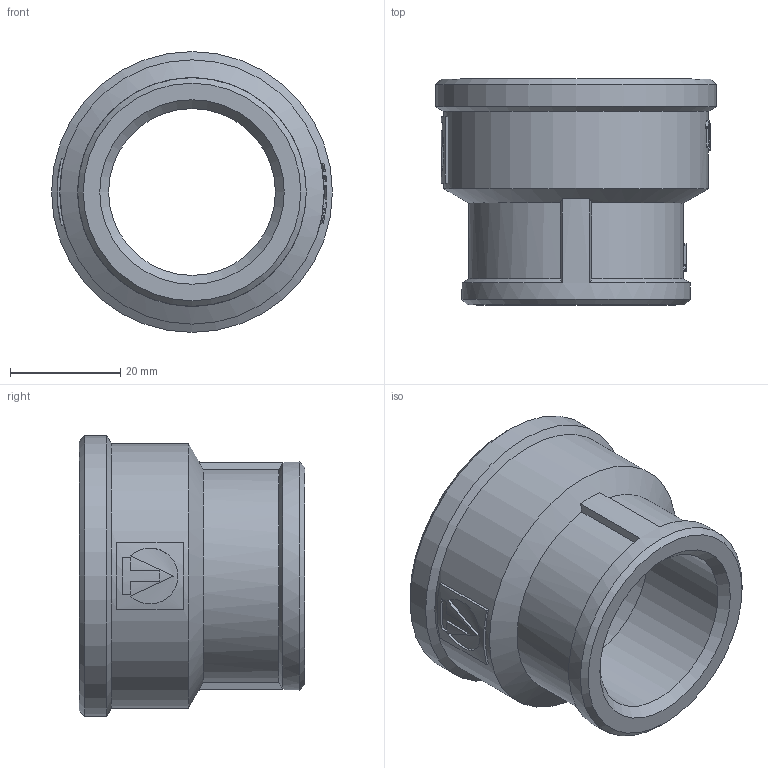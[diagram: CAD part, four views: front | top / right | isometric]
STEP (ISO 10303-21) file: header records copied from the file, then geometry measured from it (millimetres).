
FILE_DESCRIPTION(('STEP AP203'), '1');
FILE_NAME('ÂÐ.714361.008 - VTr.240.N.0706 Ìóôòà G1 1-4 õ G1', '2024-06-27T08:12:52', ('Boss'), (''), 'C3D Converter', 'C3D Toolkit', '');
FILE_SCHEMA(('CONFIG_CONTROL_DESIGN'));
Length unit declared in the file: millimetre
Products named in the file (1): ВР.714361.008
Bounding box: 51 x 41 x 51 mm (x, y, z)
Volume: 24708.1 mm3; surface area: 12263.3 mm2
Topology: 1 solids, 1 shells, 184 faces, 505 edges, 334 vertices
Faces by surface type: extrusion 90, plane 65, cylinder 20, cone 9
Full cylindrical faces by diameter (mm): 30.292 x1, 38.953 x1, 41.5 x1, 48 x1, 51 x1
Entity records: 7643 total; most frequent: CARTESIAN_POINT 3511, ORIENTED_EDGE 984, DIRECTION 562, EDGE_CURVE 492, VERTEX_POINT 334, B_SPLINE_CURVE_WITH_KNOTS 280, VECTOR 280, EDGE_LOOP 210
